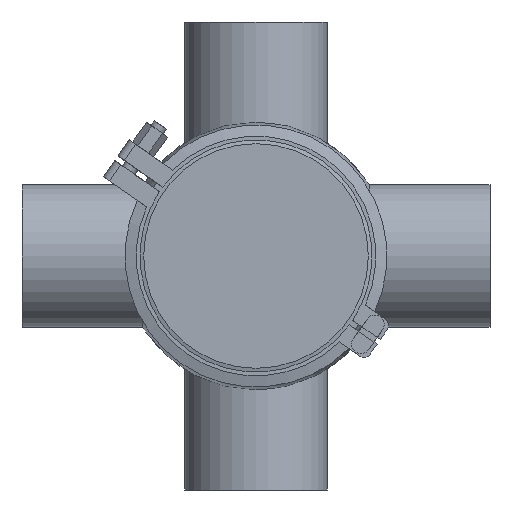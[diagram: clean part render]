
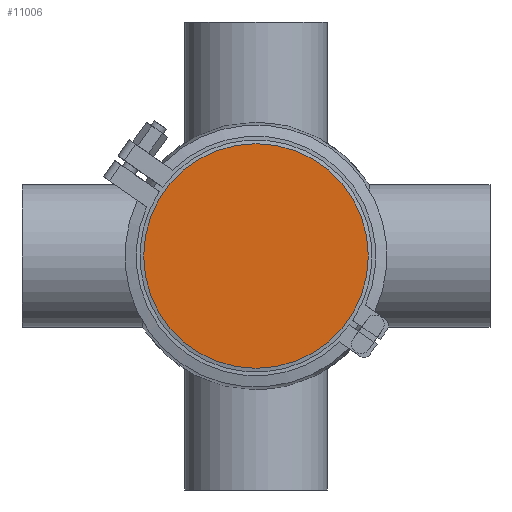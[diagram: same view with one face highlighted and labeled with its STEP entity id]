
A CAD part, front view. The second image highlights one B-rep face of the part: STEP entity #11006.
In plain terms, the highlighted planar face has unit normal (0, -1, 0).
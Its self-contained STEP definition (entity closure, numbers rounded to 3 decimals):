
#314 = CARTESIAN_POINT ( 'NONE',  ( 0., 0., 60. ) ) ;
#1073 = DIRECTION ( 'NONE',  ( 0., 0., -1. ) ) ;
#1942 = VERTEX_POINT ( 'NONE', #314 ) ;
#2289 = AXIS2_PLACEMENT_3D ( 'NONE', #9702, #17468, #9392 ) ;
#2918 = DIRECTION ( 'NONE',  ( 0., -1., 0. ) ) ;
#9392 = DIRECTION ( 'NONE',  ( 0., 0., 1. ) ) ;
#9702 = CARTESIAN_POINT ( 'NONE',  ( 0., 0., 0. ) ) ;
#9820 = CIRCLE ( 'NONE', #2289, 60. ) ;
#10127 = EDGE_LOOP ( 'NONE', ( #12287 ) ) ;
#11006 = ADVANCED_FACE ( 'NONE', ( #16073 ), #15756, .T. ) ;
#11065 = CARTESIAN_POINT ( 'NONE',  ( -60., 0., 0. ) ) ;
#12287 = ORIENTED_EDGE ( 'NONE', *, *, #19184, .F. ) ;
#13747 = AXIS2_PLACEMENT_3D ( 'NONE', #11065, #2918, #1073 ) ;
#15756 = PLANE ( 'NONE',  #13747 ) ;
#16073 = FACE_OUTER_BOUND ( 'NONE', #10127, .T. ) ;
#17468 = DIRECTION ( 'NONE',  ( 0., 1., 0. ) ) ;
#19184 = EDGE_CURVE ( 'NONE', #1942, #1942, #9820, .T. ) ;
